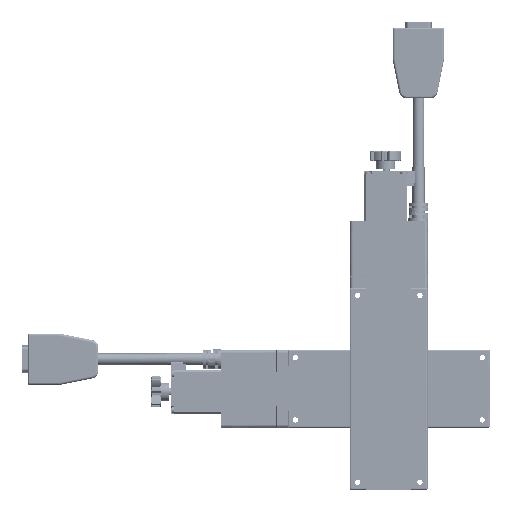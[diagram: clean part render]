
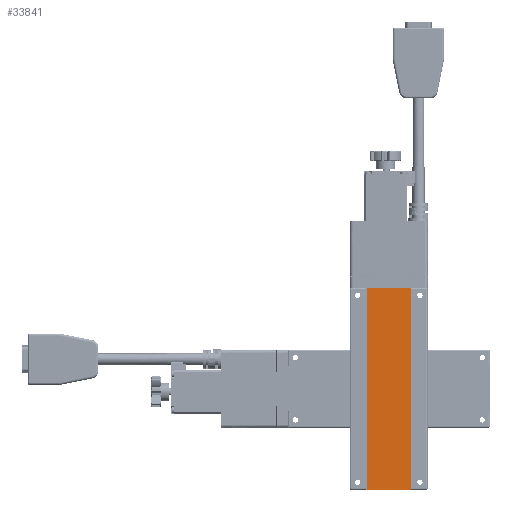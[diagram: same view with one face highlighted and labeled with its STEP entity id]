
A CAD part, front view. The second image highlights one B-rep face of the part: STEP entity #33841.
In plain terms, the highlighted planar face has unit normal (0, -1, 0).
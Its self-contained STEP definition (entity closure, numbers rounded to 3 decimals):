
#3643 = AXIS2_PLACEMENT_3D ( 'NONE', #32301, #72475, #112660 ) ;
#4585 = CARTESIAN_POINT ( 'NONE',  ( 14.3, 0.8, 0.2 ) ) ;
#11211 = EDGE_CURVE ( 'NONE', #96726, #82884, #101264, .T. ) ;
#16012 = ORIENTED_EDGE ( 'NONE', *, *, #11211, .T. ) ;
#18674 = CARTESIAN_POINT ( 'NONE',  ( -14.3, 0.8, 129.8 ) ) ;
#20146 = VERTEX_POINT ( 'NONE', #73297 ) ;
#23041 = CARTESIAN_POINT ( 'NONE',  ( -4.767, 0.8, 0.2 ) ) ;
#29737 = CARTESIAN_POINT ( 'NONE',  ( 14.3, 0.8, 129.8 ) ) ;
#30990 = CARTESIAN_POINT ( 'NONE',  ( 14.3, 0.8, 129.8 ) ) ;
#32301 = CARTESIAN_POINT ( 'NONE',  ( -14.3, 0.8, 129.8 ) ) ;
#33841 = ADVANCED_FACE ( 'NONE', ( #42186 ), #122542, .F. ) ;
#38979 = CARTESIAN_POINT ( 'NONE',  ( 14.3, 0.8, 43.4 ) ) ;
#39556 = CARTESIAN_POINT ( 'NONE',  ( 4.767, 0.8, 129.8 ) ) ;
#42186 = FACE_OUTER_BOUND ( 'NONE', #102903, .T. ) ;
#48215 = CARTESIAN_POINT ( 'NONE',  ( 14.3, 0.8, 86.6 ) ) ;
#49432 = CARTESIAN_POINT ( 'NONE',  ( -4.767, 0.8, 129.8 ) ) ;
#49565 = ORIENTED_EDGE ( 'NONE', *, *, #69440, .T. ) ;
#56298 = CARTESIAN_POINT ( 'NONE',  ( -14.3, 0.8, 0.2 ) ) ;
#62519 = CARTESIAN_POINT ( 'NONE',  ( -14.3, 0.8, 43.4 ) ) ;
#64116 = ORIENTED_EDGE ( 'NONE', *, *, #74112, .T. ) ;
#65156 = B_SPLINE_CURVE_WITH_KNOTS ( 'NONE', 3,
 ( #108830, #38979, #48215, #29737 ),
 .UNSPECIFIED., .F., .F.,
 ( 4, 4 ),
 ( 0., 1. ),
 .UNSPECIFIED. ) ;
#69440 = EDGE_CURVE ( 'NONE', #20146, #96726, #84031, .T. ) ;
#69792 = CARTESIAN_POINT ( 'NONE',  ( -14.3, 0.8, 0.2 ) ) ;
#72475 = DIRECTION ( 'NONE',  ( 0., 1., 0. ) ) ;
#73297 = CARTESIAN_POINT ( 'NONE',  ( 14.3, 0.8, 129.8 ) ) ;
#74112 = EDGE_CURVE ( 'NONE', #82884, #118910, #127297, .T. ) ;
#82884 = VERTEX_POINT ( 'NONE', #56298 ) ;
#84031 = B_SPLINE_CURVE_WITH_KNOTS ( 'NONE', 3,
 ( #30990, #39556, #49432, #101456 ),
 .UNSPECIFIED., .F., .F.,
 ( 4, 4 ),
 ( 0., 1. ),
 .UNSPECIFIED. ) ;
#84968 = CARTESIAN_POINT ( 'NONE',  ( 4.767, 0.8, 0.2 ) ) ;
#86952 = CARTESIAN_POINT ( 'NONE',  ( 14.3, 0.8, 0.2 ) ) ;
#96726 = VERTEX_POINT ( 'NONE', #18674 ) ;
#96876 = EDGE_CURVE ( 'NONE', #118910, #20146, #65156, .T. ) ;
#100750 = CARTESIAN_POINT ( 'NONE',  ( -14.3, 0.8, 129.8 ) ) ;
#101264 = B_SPLINE_CURVE_WITH_KNOTS ( 'NONE', 3,
 ( #100750, #102039, #62519, #69792 ),
 .UNSPECIFIED., .F., .F.,
 ( 4, 4 ),
 ( 0., 1. ),
 .UNSPECIFIED. ) ;
#101456 = CARTESIAN_POINT ( 'NONE',  ( -14.3, 0.8, 129.8 ) ) ;
#102039 = CARTESIAN_POINT ( 'NONE',  ( -14.3, 0.8, 86.6 ) ) ;
#102903 = EDGE_LOOP ( 'NONE', ( #64116, #120380, #49565, #16012 ) ) ;
#108830 = CARTESIAN_POINT ( 'NONE',  ( 14.3, 0.8, 0.2 ) ) ;
#112660 = DIRECTION ( 'NONE',  ( 1., 0., 0. ) ) ;
#118910 = VERTEX_POINT ( 'NONE', #86952 ) ;
#120380 = ORIENTED_EDGE ( 'NONE', *, *, #96876, .T. ) ;
#122542 = PLANE ( 'NONE',  #3643 ) ;
#127297 = B_SPLINE_CURVE_WITH_KNOTS ( 'NONE', 3,
 ( #130446, #23041, #84968, #4585 ),
 .UNSPECIFIED., .F., .F.,
 ( 4, 4 ),
 ( 0., 1. ),
 .UNSPECIFIED. ) ;
#130446 = CARTESIAN_POINT ( 'NONE',  ( -14.3, 0.8, 0.2 ) ) ;
